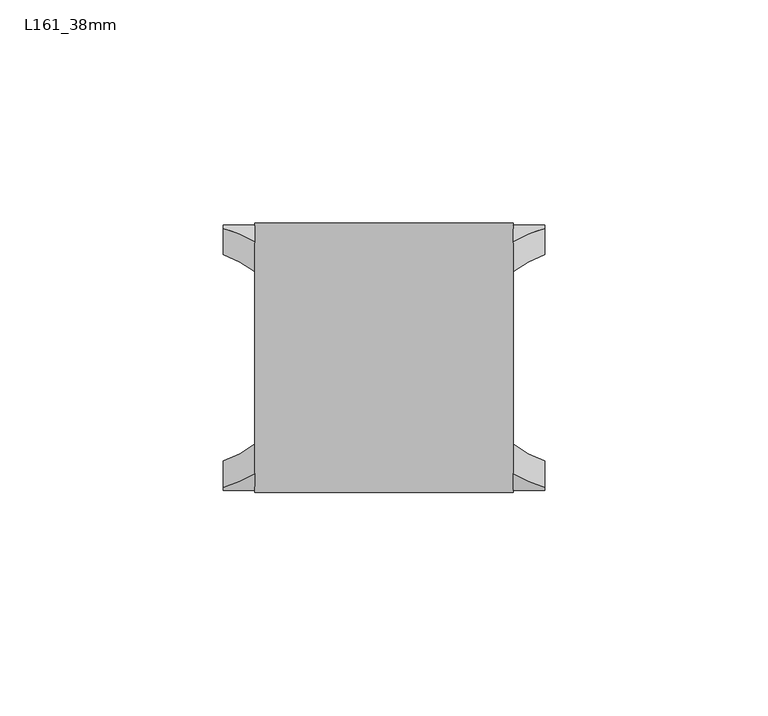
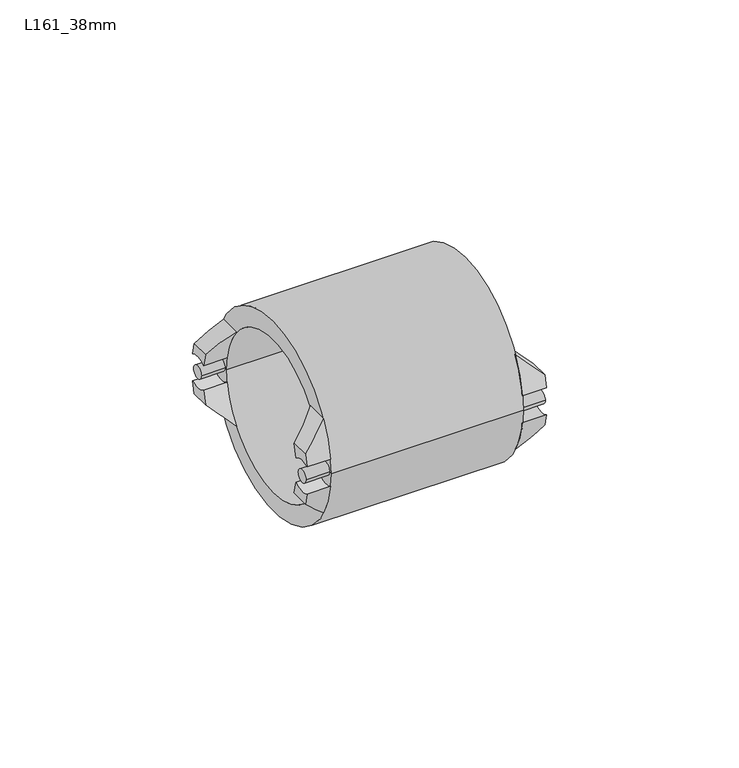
"""IFC4 building model written with IfcOpenShell, lengths in millimetres: pipe fitting geometry, Durapipe_PipeFitting_VulcatheneEnfusion_Coupling_L16 : L161_38mm."""

from ifc_helpers import new_model, si_unit, point, frame, frame_2d, origin, place, context, project, spatial, polyline, circle_curve, ellipse_curve, trimmed, segment, composite_curve, outline, extrude, source, transform, mapped, element, save
from ifc_brep_helpers import plane_surface, cylinder_surface, revolved_surface, advanced_brep


def l161_38mm_9375cee0(model_context):
    return source(origin(), model_context, "Body", "SolidModel", [
        advanced_brep(
        [(-36.0, -24.1351376, 3.9112188), (-36.0, -29.7351376, 4.3386739), (-36.0, -28.9820444, 7.94), (-36.0, -23.1248546, 7.94), (-28.9, -26.0384811, 15.0), (-28.9, -29.7351376, 4.3386739), (-28.9, -24.1351376, 3.9112188), (-28.9, -19.3080942, 15.0)],
        [
            (0, 1, circle_curve(frame((-36.0, -27.25, 0.0), z_axis=(1.0, 0.0, 0.0), x_axis=(0.0, 1.0, 0.0)), 5.0)),
            (1, 2, circle_curve(frame((-36.0, 0.0, 0.0), z_axis=(-1.0, 0.0, 0.0), x_axis=(0.0, 1.0, 0.0)), 30.05)),
            (2, 3),
            (3, 0, circle_curve(frame((-36.0, 0.0, 0.0), z_axis=(1.0, 0.0, 0.0), x_axis=(0.0, 1.0, 0.0)), 24.45)),
            (4, 5, circle_curve(frame((-28.9, 0.0, 0.0), z_axis=(1.0, 0.0, 0.0), x_axis=(0.0, 1.0, 0.0)), 30.05)),
            (5, 6, circle_curve(frame((-28.9, -27.25, 0.0), z_axis=(-1.0, 0.0, 0.0), x_axis=(0.0, 1.0, 0.0)), 5.0)),
            (6, 7, circle_curve(frame((-28.9, 0.0, 0.0), z_axis=(-1.0, 0.0, 0.0), x_axis=(0.0, 1.0, 0.0)), 24.45)),
            (7, 4),
            (6, 0),
            (3, 7, ellipse_curve(frame((-43.9849858, 0.0, 0.0), z_axis=(-0.7051064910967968, 0.0, 0.7091014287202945), x_axis=(0.7091014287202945, 0.0, 0.7051064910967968)), 34.6756133, 24.45)),
            (4, 2, ellipse_curve(frame((-43.9849858, 0.0, 0.0), z_axis=(0.7051064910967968, 0.0, -0.7091014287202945), x_axis=(-0.7091014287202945, 0.0, -0.7051064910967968)), 42.617676, 30.05)),
            (1, 5),
        ],
        [
            plane_surface(frame((-36.0, -26.0384811, 15.0), z_axis=(-1.0, 0.0, 0.0), x_axis=(0.0, 1.0, 0.0))),
            plane_surface(frame((-28.9, -26.0384811, 15.0), z_axis=(1.0, 0.0, 0.0), x_axis=(0.0, -1.0, 0.0))),
            revolved_surface(polyline([(-19.39645886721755, 24.45, 0.0), (-68.57351273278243, 24.45, 0.0)]), (-28.9, 0.0, 0.0), (1.0, 0.0, 0.0)),
            cylinder_surface(frame((-28.9, 0.0, 0.0), z_axis=(-1.0, 0.0, 0.0), x_axis=(0.0, 1.0, 0.0)), 30.05),
            revolved_surface(polyline([(-36.0, -22.25, 0.0), (-28.9, -22.25, 0.0)]), (-28.9, -27.25, 0.0), (-1.0, 0.0, 0.0)),
            plane_surface(frame((-28.9, 30.05, 15.0), z_axis=(-0.7051064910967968, 0.0, 0.7091014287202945), x_axis=(0.0, -1.0, 0.0))),
        ],
        [
            (0, [[1, 2, 3, 4]]),
            (1, [[5, 6, 7, 8]]),
            (2, [[-7, 9, -4, 10]]),
            (3, [[-5, 11, -2, 12]]),
            (4, [[-1, -9, -6, -12]]),
            (5, [[-3, -11, -8, -10]]),
        ],
    ),
        advanced_brep(
        [(-36.0, -29.7351376, -4.3386739), (-36.0, -24.1351376, -3.9112188), (-36.0, -23.1248546, -7.94), (-36.0, -28.9820444, -7.94), (-28.9, -29.7351376, -4.3386739), (-28.9, -26.0384811, -15.0), (-28.9, -19.3080942, -15.0), (-28.9, -24.1351376, -3.9112188)],
        [
            (0, 1, circle_curve(frame((-36.0, -27.25, 0.0), z_axis=(1.0, 0.0, 0.0), x_axis=(0.0, 1.0, 0.0)), 5.0)),
            (1, 2, circle_curve(frame((-36.0, 0.0, 0.0), z_axis=(1.0, 0.0, 0.0), x_axis=(0.0, 1.0, 0.0)), 24.45)),
            (2, 3),
            (3, 0, circle_curve(frame((-36.0, 0.0, 0.0), z_axis=(-1.0, 0.0, 0.0), x_axis=(0.0, 1.0, 0.0)), 30.05)),
            (4, 5, circle_curve(frame((-28.9, 0.0, 0.0), z_axis=(1.0, 0.0, 0.0), x_axis=(0.0, 1.0, 0.0)), 30.05)),
            (5, 6),
            (6, 7, circle_curve(frame((-28.9, 0.0, 0.0), z_axis=(-1.0, 0.0, 0.0), x_axis=(0.0, 1.0, 0.0)), 24.45)),
            (7, 4, circle_curve(frame((-28.9, -27.25, 0.0), z_axis=(-1.0, 0.0, 0.0), x_axis=(0.0, 1.0, 0.0)), 5.0)),
            (6, 2, ellipse_curve(frame((-43.9849858, 0.0, 0.0), z_axis=(-0.7051064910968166, 0.0, -0.7091014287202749), x_axis=(0.7091014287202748, 0.0, -0.7051064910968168)), 34.6756133, 24.45)),
            (1, 7),
            (4, 0),
            (3, 5, ellipse_curve(frame((-43.9849858, 0.0, 0.0), z_axis=(0.7051064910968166, 0.0, 0.7091014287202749), x_axis=(-0.7091014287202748, 0.0, 0.7051064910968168)), 42.617676, 30.05)),
        ],
        [
            plane_surface(frame((-36.0, -26.0384811, 15.0), z_axis=(-1.0, 0.0, 0.0), x_axis=(0.0, 1.0, 0.0))),
            plane_surface(frame((-28.9, -26.0384811, 15.0), z_axis=(1.0, 0.0, 0.0), x_axis=(0.0, -1.0, 0.0))),
            revolved_surface(polyline([(-19.396458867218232, 24.45, 0.0), (-68.57351273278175, 24.45, 0.0)]), (-28.9, 0.0, 0.0), (1.0, 0.0, 0.0)),
            cylinder_surface(frame((-28.9, 0.0, 0.0), z_axis=(-1.0, 0.0, 0.0), x_axis=(0.0, 1.0, 0.0)), 30.05),
            revolved_surface(polyline([(-36.0, -22.25, 0.0), (-28.9, -22.25, 0.0)]), (-28.9, -27.25, 0.0), (-1.0, 0.0, 0.0)),
            plane_surface(frame((-36.0, 30.05, -7.94), z_axis=(-0.7051064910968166, 0.0, -0.7091014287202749), x_axis=(0.0, -1.0, 0.0))),
        ],
        [
            (0, [[1, 2, 3, 4]]),
            (1, [[5, 6, 7, 8]]),
            (2, [[-7, 9, -2, 10]]),
            (3, [[-5, 11, -4, 12]]),
            (4, [[-1, -11, -8, -10]]),
            (5, [[-3, -9, -6, -12]]),
        ],
    ),
        advanced_brep(
        [(-36.0, 29.7351376, 4.3386739), (-36.0, 24.1351376, 3.9112188), (-36.0, 23.1248546, 7.94), (-36.0, 28.9820444, 7.94), (-28.9, 29.7351376, 4.3386739), (-28.9, 26.0384811, 15.0), (-28.9, 19.3080942, 15.0), (-28.9, 24.1351376, 3.9112188)],
        [
            (0, 1, circle_curve(frame((-36.0, 27.25, 0.0), z_axis=(1.0, 0.0, 0.0), x_axis=(0.0, 1.0, 0.0)), 5.0)),
            (1, 2, circle_curve(frame((-36.0, 0.0, 0.0), z_axis=(1.0, 0.0, 0.0), x_axis=(0.0, 1.0, 0.0)), 24.45)),
            (2, 3),
            (3, 0, circle_curve(frame((-36.0, 0.0, 0.0), z_axis=(-1.0, 0.0, 0.0), x_axis=(0.0, 1.0, 0.0)), 30.05)),
            (4, 5, circle_curve(frame((-28.9, 0.0, 0.0), z_axis=(1.0, 0.0, 0.0), x_axis=(0.0, 1.0, 0.0)), 30.05)),
            (5, 6),
            (6, 7, circle_curve(frame((-28.9, 0.0, 0.0), z_axis=(-1.0, 0.0, 0.0), x_axis=(0.0, 1.0, 0.0)), 24.45)),
            (7, 4, circle_curve(frame((-28.9, 27.25, 0.0), z_axis=(-1.0, 0.0, 0.0), x_axis=(0.0, 1.0, 0.0)), 5.0)),
            (6, 2, ellipse_curve(frame((-43.9849858, 0.0, 0.0), z_axis=(-0.7051064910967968, 0.0, 0.7091014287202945), x_axis=(0.7091014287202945, 0.0, 0.7051064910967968)), 34.6756133, 24.45)),
            (1, 7),
            (4, 0),
            (3, 5, ellipse_curve(frame((-43.9849858, 0.0, 0.0), z_axis=(0.7051064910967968, 0.0, -0.7091014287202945), x_axis=(-0.7091014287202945, 0.0, -0.7051064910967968)), 42.617676, 30.05)),
        ],
        [
            plane_surface(frame((-36.0, -26.0384811, 15.0), z_axis=(-1.0, 0.0, 0.0), x_axis=(0.0, 1.0, 0.0))),
            plane_surface(frame((-28.9, -26.0384811, 15.0), z_axis=(1.0, 0.0, 0.0), x_axis=(0.0, -1.0, 0.0))),
            revolved_surface(polyline([(-19.39645886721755, 24.45, 0.0), (-68.57351273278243, 24.45, 0.0)]), (-28.9, 0.0, 0.0), (1.0, 0.0, 0.0)),
            cylinder_surface(frame((-28.9, 0.0, 0.0), z_axis=(-1.0, 0.0, 0.0), x_axis=(0.0, 1.0, 0.0)), 30.05),
            revolved_surface(polyline([(-36.0, 32.25, 0.0), (-28.9, 32.25, 0.0)]), (-28.9, 27.25, 0.0), (-1.0, 0.0, 0.0)),
            plane_surface(frame((-28.9, 30.05, 15.0), z_axis=(-0.7051064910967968, 0.0, 0.7091014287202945), x_axis=(0.0, -1.0, 0.0))),
        ],
        [
            (0, [[1, 2, 3, 4]]),
            (1, [[5, 6, 7, 8]]),
            (2, [[-7, 9, -2, 10]]),
            (3, [[-5, 11, -4, 12]]),
            (4, [[-1, -11, -8, -10]]),
            (5, [[-3, -9, -6, -12]]),
        ],
    ),
        advanced_brep(
        [(-36.0, 24.1351376, -3.9112188), (-36.0, 29.7351376, -4.3386739), (-36.0, 28.9820444, -7.94), (-36.0, 23.1248546, -7.94), (-28.9, 26.0384811, -15.0), (-28.9, 29.7351376, -4.3386739), (-28.9, 24.1351376, -3.9112188), (-28.9, 19.3080942, -15.0)],
        [
            (0, 1, circle_curve(frame((-36.0, 27.25, 0.0), z_axis=(1.0, 0.0, 0.0), x_axis=(0.0, 1.0, 0.0)), 5.0)),
            (1, 2, circle_curve(frame((-36.0, 0.0, 0.0), z_axis=(-1.0, 0.0, 0.0), x_axis=(0.0, 1.0, 0.0)), 30.05)),
            (2, 3),
            (3, 0, circle_curve(frame((-36.0, 0.0, 0.0), z_axis=(1.0, 0.0, 0.0), x_axis=(0.0, 1.0, 0.0)), 24.45)),
            (4, 5, circle_curve(frame((-28.9, 0.0, 0.0), z_axis=(1.0, 0.0, 0.0), x_axis=(0.0, 1.0, 0.0)), 30.05)),
            (5, 6, circle_curve(frame((-28.9, 27.25, 0.0), z_axis=(-1.0, 0.0, 0.0), x_axis=(0.0, 1.0, 0.0)), 5.0)),
            (6, 7, circle_curve(frame((-28.9, 0.0, 0.0), z_axis=(-1.0, 0.0, 0.0), x_axis=(0.0, 1.0, 0.0)), 24.45)),
            (7, 4),
            (6, 0),
            (3, 7, ellipse_curve(frame((-43.9849858, 0.0, 0.0), z_axis=(-0.7051064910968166, 0.0, -0.7091014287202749), x_axis=(0.7091014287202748, 0.0, -0.7051064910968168)), 34.6756133, 24.45)),
            (4, 2, ellipse_curve(frame((-43.9849858, 0.0, 0.0), z_axis=(0.7051064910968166, 0.0, 0.7091014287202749), x_axis=(-0.7091014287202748, 0.0, 0.7051064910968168)), 42.617676, 30.05)),
            (1, 5),
        ],
        [
            plane_surface(frame((-36.0, -26.0384811, 15.0), z_axis=(-1.0, 0.0, 0.0), x_axis=(0.0, 1.0, 0.0))),
            plane_surface(frame((-28.9, -26.0384811, 15.0), z_axis=(1.0, 0.0, 0.0), x_axis=(0.0, -1.0, 0.0))),
            revolved_surface(polyline([(-19.396458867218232, 24.45, 0.0), (-68.57351273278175, 24.45, 0.0)]), (-28.9, 0.0, 0.0), (1.0, 0.0, 0.0)),
            cylinder_surface(frame((-28.9, 0.0, 0.0), z_axis=(-1.0, 0.0, 0.0), x_axis=(0.0, 1.0, 0.0)), 30.05),
            revolved_surface(polyline([(-36.0, 32.25, 0.0), (-28.9, 32.25, 0.0)]), (-28.9, 27.25, 0.0), (-1.0, 0.0, 0.0)),
            plane_surface(frame((-36.0, 30.05, -7.94), z_axis=(-0.7051064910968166, 0.0, -0.7091014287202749), x_axis=(0.0, -1.0, 0.0))),
        ],
        [
            (0, [[1, 2, 3, 4]]),
            (1, [[5, 6, 7, 8]]),
            (2, [[-7, 9, -4, 10]]),
            (3, [[-5, 11, -2, 12]]),
            (4, [[-1, -9, -6, -12]]),
            (5, [[-3, -11, -8, -10]]),
        ],
    ),
        extrude(outline(composite_curve([segment(trimmed(circle_curve(frame_2d((-27.25, 0.0)), 2.0), [point((-29.25, 0.0))], [point((-25.25, 0.0))], False, "CARTESIAN"), True, "CONTINUOUS"), segment(trimmed(circle_curve(frame_2d((-27.25, 0.0)), 2.0), [point((-25.25, 0.0))], [point((-29.25, 0.0))], False, "CARTESIAN"), True, "CONTINUOUS")], self_intersect=False)), frame((-36.0, 0.0, 0.0), z_axis=(1.0, 0.0, 0.0), x_axis=(0.0, 1.0, 0.0)), (0.0, 0.0, 1.0), 7.1),
        extrude(outline(composite_curve([segment(trimmed(circle_curve(frame_2d((27.25, 0.0)), 2.0), [point((25.25, 0.0))], [point((29.25, 0.0))], False, "CARTESIAN"), True, "CONTINUOUS"), segment(trimmed(circle_curve(frame_2d((27.25, 0.0)), 2.0), [point((29.25, 0.0))], [point((25.25, 0.0))], False, "CARTESIAN"), True, "CONTINUOUS")], self_intersect=False)), frame((-36.0, 0.0, 0.0), z_axis=(1.0, 0.0, 0.0), x_axis=(0.0, 1.0, 0.0)), (0.0, 0.0, 1.0), 7.1),
        advanced_brep(
        [(36.0, -24.1351376, -3.9112188), (36.0, -29.7351376, -4.3386739), (36.0, -28.9820444, -7.94), (36.0, -23.1248546, -7.94), (28.9, -26.0384811, -15.0), (28.9, -29.7351376, -4.3386739), (28.9, -24.1351376, -3.9112188), (28.9, -19.3080942, -15.0)],
        [
            (0, 1, circle_curve(frame((36.0, -27.25, 0.0), z_axis=(-1.0, 0.0, 0.0), x_axis=(0.0, 1.0, 0.0)), 5.0)),
            (1, 2, circle_curve(frame((36.0, 0.0, 0.0), z_axis=(1.0, 0.0, 0.0), x_axis=(0.0, 1.0, 0.0)), 30.05)),
            (2, 3),
            (3, 0, circle_curve(frame((36.0, 0.0, 0.0), z_axis=(-1.0, 0.0, 0.0), x_axis=(0.0, 1.0, 0.0)), 24.45)),
            (4, 5, circle_curve(frame((28.9, 0.0, 0.0), z_axis=(-1.0, 0.0, 0.0), x_axis=(0.0, 1.0, 0.0)), 30.05)),
            (5, 6, circle_curve(frame((28.9, -27.25, 0.0), z_axis=(1.0, 0.0, 0.0), x_axis=(0.0, 1.0, 0.0)), 5.0)),
            (6, 7, circle_curve(frame((28.9, 0.0, 0.0), z_axis=(1.0, 0.0, 0.0), x_axis=(0.0, 1.0, 0.0)), 24.45)),
            (7, 4),
            (6, 0),
            (3, 7, ellipse_curve(frame((43.9849858, 0.0, 0.0), z_axis=(0.7051064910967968, 0.0, -0.7091014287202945), x_axis=(-0.7091014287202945, 0.0, -0.7051064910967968)), 34.6756133, 24.45)),
            (4, 2, ellipse_curve(frame((43.9849858, 0.0, 0.0), z_axis=(-0.7051064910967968, 0.0, 0.7091014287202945), x_axis=(0.7091014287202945, 0.0, 0.7051064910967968)), 42.617676, 30.05)),
            (1, 5),
        ],
        [
            plane_surface(frame((36.0, -26.0384811, -15.0), z_axis=(1.0, 0.0, 0.0), x_axis=(0.0, 1.0, 0.0))),
            plane_surface(frame((28.9, -26.0384811, -15.0), z_axis=(-1.0, 0.0, 0.0), x_axis=(0.0, -1.0, 0.0))),
            revolved_surface(polyline([(19.39645886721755, 24.45, 0.0), (68.57351273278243, 24.45, 0.0)]), (28.9, 0.0, 0.0), (-1.0, 0.0, 0.0)),
            cylinder_surface(frame((28.9, 0.0, 0.0), z_axis=(1.0, 0.0, 0.0), x_axis=(0.0, 1.0, 0.0)), 30.05),
            revolved_surface(polyline([(36.0, -22.25, 0.0), (28.9, -22.25, 0.0)]), (28.9, -27.25, 0.0), (1.0, 0.0, 0.0)),
            plane_surface(frame((28.9, 30.05, -15.0), z_axis=(0.7051064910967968, 0.0, -0.7091014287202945), x_axis=(0.0, -1.0, 0.0))),
        ],
        [
            (0, [[1, 2, 3, 4]]),
            (1, [[5, 6, 7, 8]]),
            (2, [[-7, 9, -4, 10]]),
            (3, [[-5, 11, -2, 12]]),
            (4, [[-1, -9, -6, -12]]),
            (5, [[-3, -11, -8, -10]]),
        ],
    ),
        advanced_brep(
        [(36.0, -29.7351376, 4.3386739), (36.0, -24.1351376, 3.9112188), (36.0, -23.1248546, 7.94), (36.0, -28.9820444, 7.94), (28.9, -29.7351376, 4.3386739), (28.9, -26.0384811, 15.0), (28.9, -19.3080942, 15.0), (28.9, -24.1351376, 3.9112188)],
        [
            (0, 1, circle_curve(frame((36.0, -27.25, 0.0), z_axis=(-1.0, 0.0, 0.0), x_axis=(0.0, 1.0, 0.0)), 5.0)),
            (1, 2, circle_curve(frame((36.0, 0.0, 0.0), z_axis=(-1.0, 0.0, 0.0), x_axis=(0.0, 1.0, 0.0)), 24.45)),
            (2, 3),
            (3, 0, circle_curve(frame((36.0, 0.0, 0.0), z_axis=(1.0, 0.0, 0.0), x_axis=(0.0, 1.0, 0.0)), 30.05)),
            (4, 5, circle_curve(frame((28.9, 0.0, 0.0), z_axis=(-1.0, 0.0, 0.0), x_axis=(0.0, 1.0, 0.0)), 30.05)),
            (5, 6),
            (6, 7, circle_curve(frame((28.9, 0.0, 0.0), z_axis=(1.0, 0.0, 0.0), x_axis=(0.0, 1.0, 0.0)), 24.45)),
            (7, 4, circle_curve(frame((28.9, -27.25, 0.0), z_axis=(1.0, 0.0, 0.0), x_axis=(0.0, 1.0, 0.0)), 5.0)),
            (6, 2, ellipse_curve(frame((43.9849858, 0.0, 0.0), z_axis=(0.7051064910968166, 0.0, 0.7091014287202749), x_axis=(-0.7091014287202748, 0.0, 0.7051064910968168)), 34.6756133, 24.45)),
            (1, 7),
            (4, 0),
            (3, 5, ellipse_curve(frame((43.9849858, 0.0, 0.0), z_axis=(-0.7051064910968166, 0.0, -0.7091014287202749), x_axis=(0.7091014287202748, 0.0, -0.7051064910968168)), 42.617676, 30.05)),
        ],
        [
            plane_surface(frame((36.0, -26.0384811, -15.0), z_axis=(1.0, 0.0, 0.0), x_axis=(0.0, 1.0, 0.0))),
            plane_surface(frame((28.9, -26.0384811, -15.0), z_axis=(-1.0, 0.0, 0.0), x_axis=(0.0, -1.0, 0.0))),
            revolved_surface(polyline([(19.396458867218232, 24.45, 0.0), (68.57351273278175, 24.45, 0.0)]), (28.9, 0.0, 0.0), (-1.0, 0.0, 0.0)),
            cylinder_surface(frame((28.9, 0.0, 0.0), z_axis=(1.0, 0.0, 0.0), x_axis=(0.0, 1.0, 0.0)), 30.05),
            revolved_surface(polyline([(36.0, -22.25, 0.0), (28.9, -22.25, 0.0)]), (28.9, -27.25, 0.0), (1.0, 0.0, 0.0)),
            plane_surface(frame((36.0, 30.05, 7.94), z_axis=(0.7051064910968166, 0.0, 0.7091014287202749), x_axis=(0.0, -1.0, 0.0))),
        ],
        [
            (0, [[1, 2, 3, 4]]),
            (1, [[5, 6, 7, 8]]),
            (2, [[-7, 9, -2, 10]]),
            (3, [[-5, 11, -4, 12]]),
            (4, [[-1, -11, -8, -10]]),
            (5, [[-3, -9, -6, -12]]),
        ],
    ),
        advanced_brep(
        [(36.0, 29.7351376, -4.3386739), (36.0, 24.1351376, -3.9112188), (36.0, 23.1248546, -7.94), (36.0, 28.9820444, -7.94), (28.9, 29.7351376, -4.3386739), (28.9, 26.0384811, -15.0), (28.9, 19.3080942, -15.0), (28.9, 24.1351376, -3.9112188)],
        [
            (0, 1, circle_curve(frame((36.0, 27.25, 0.0), z_axis=(-1.0, 0.0, 0.0), x_axis=(0.0, 1.0, 0.0)), 5.0)),
            (1, 2, circle_curve(frame((36.0, 0.0, 0.0), z_axis=(-1.0, 0.0, 0.0), x_axis=(0.0, 1.0, 0.0)), 24.45)),
            (2, 3),
            (3, 0, circle_curve(frame((36.0, 0.0, 0.0), z_axis=(1.0, 0.0, 0.0), x_axis=(0.0, 1.0, 0.0)), 30.05)),
            (4, 5, circle_curve(frame((28.9, 0.0, 0.0), z_axis=(-1.0, 0.0, 0.0), x_axis=(0.0, 1.0, 0.0)), 30.05)),
            (5, 6),
            (6, 7, circle_curve(frame((28.9, 0.0, 0.0), z_axis=(1.0, 0.0, 0.0), x_axis=(0.0, 1.0, 0.0)), 24.45)),
            (7, 4, circle_curve(frame((28.9, 27.25, 0.0), z_axis=(1.0, 0.0, 0.0), x_axis=(0.0, 1.0, 0.0)), 5.0)),
            (6, 2, ellipse_curve(frame((43.9849858, 0.0, 0.0), z_axis=(0.7051064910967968, 0.0, -0.7091014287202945), x_axis=(-0.7091014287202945, 0.0, -0.7051064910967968)), 34.6756133, 24.45)),
            (1, 7),
            (4, 0),
            (3, 5, ellipse_curve(frame((43.9849858, 0.0, 0.0), z_axis=(-0.7051064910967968, 0.0, 0.7091014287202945), x_axis=(0.7091014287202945, 0.0, 0.7051064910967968)), 42.617676, 30.05)),
        ],
        [
            plane_surface(frame((36.0, -26.0384811, -15.0), z_axis=(1.0, 0.0, 0.0), x_axis=(0.0, 1.0, 0.0))),
            plane_surface(frame((28.9, -26.0384811, -15.0), z_axis=(-1.0, 0.0, 0.0), x_axis=(0.0, -1.0, 0.0))),
            revolved_surface(polyline([(19.39645886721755, 24.45, 0.0), (68.57351273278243, 24.45, 0.0)]), (28.9, 0.0, 0.0), (-1.0, 0.0, 0.0)),
            cylinder_surface(frame((28.9, 0.0, 0.0), z_axis=(1.0, 0.0, 0.0), x_axis=(0.0, 1.0, 0.0)), 30.05),
            revolved_surface(polyline([(36.0, 32.25, 0.0), (28.9, 32.25, 0.0)]), (28.9, 27.25, 0.0), (1.0, 0.0, 0.0)),
            plane_surface(frame((28.9, 30.05, -15.0), z_axis=(0.7051064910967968, 0.0, -0.7091014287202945), x_axis=(0.0, -1.0, 0.0))),
        ],
        [
            (0, [[1, 2, 3, 4]]),
            (1, [[5, 6, 7, 8]]),
            (2, [[-7, 9, -2, 10]]),
            (3, [[-5, 11, -4, 12]]),
            (4, [[-1, -11, -8, -10]]),
            (5, [[-3, -9, -6, -12]]),
        ],
    ),
        advanced_brep(
        [(36.0, 24.1351376, 3.9112188), (36.0, 29.7351376, 4.3386739), (36.0, 28.9820444, 7.94), (36.0, 23.1248546, 7.94), (28.9, 26.0384811, 15.0), (28.9, 29.7351376, 4.3386739), (28.9, 24.1351376, 3.9112188), (28.9, 19.3080942, 15.0)],
        [
            (0, 1, circle_curve(frame((36.0, 27.25, 0.0), z_axis=(-1.0, 0.0, 0.0), x_axis=(0.0, 1.0, 0.0)), 5.0)),
            (1, 2, circle_curve(frame((36.0, 0.0, 0.0), z_axis=(1.0, 0.0, 0.0), x_axis=(0.0, 1.0, 0.0)), 30.05)),
            (2, 3),
            (3, 0, circle_curve(frame((36.0, 0.0, 0.0), z_axis=(-1.0, 0.0, 0.0), x_axis=(0.0, 1.0, 0.0)), 24.45)),
            (4, 5, circle_curve(frame((28.9, 0.0, 0.0), z_axis=(-1.0, 0.0, 0.0), x_axis=(0.0, 1.0, 0.0)), 30.05)),
            (5, 6, circle_curve(frame((28.9, 27.25, 0.0), z_axis=(1.0, 0.0, 0.0), x_axis=(0.0, 1.0, 0.0)), 5.0)),
            (6, 7, circle_curve(frame((28.9, 0.0, 0.0), z_axis=(1.0, 0.0, 0.0), x_axis=(0.0, 1.0, 0.0)), 24.45)),
            (7, 4),
            (6, 0),
            (3, 7, ellipse_curve(frame((43.9849858, 0.0, 0.0), z_axis=(0.7051064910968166, 0.0, 0.7091014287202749), x_axis=(-0.7091014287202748, 0.0, 0.7051064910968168)), 34.6756133, 24.45)),
            (4, 2, ellipse_curve(frame((43.9849858, 0.0, 0.0), z_axis=(-0.7051064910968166, 0.0, -0.7091014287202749), x_axis=(0.7091014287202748, 0.0, -0.7051064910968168)), 42.617676, 30.05)),
            (1, 5),
        ],
        [
            plane_surface(frame((36.0, -26.0384811, -15.0), z_axis=(1.0, 0.0, 0.0), x_axis=(0.0, 1.0, 0.0))),
            plane_surface(frame((28.9, -26.0384811, -15.0), z_axis=(-1.0, 0.0, 0.0), x_axis=(0.0, -1.0, 0.0))),
            revolved_surface(polyline([(19.396458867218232, 24.45, 0.0), (68.57351273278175, 24.45, 0.0)]), (28.9, 0.0, 0.0), (-1.0, 0.0, 0.0)),
            cylinder_surface(frame((28.9, 0.0, 0.0), z_axis=(1.0, 0.0, 0.0), x_axis=(0.0, 1.0, 0.0)), 30.05),
            revolved_surface(polyline([(36.0, 32.25, 0.0), (28.9, 32.25, 0.0)]), (28.9, 27.25, 0.0), (1.0, 0.0, 0.0)),
            plane_surface(frame((36.0, 30.05, 7.94), z_axis=(0.7051064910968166, 0.0, 0.7091014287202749), x_axis=(0.0, -1.0, 0.0))),
        ],
        [
            (0, [[1, 2, 3, 4]]),
            (1, [[5, 6, 7, 8]]),
            (2, [[-7, 9, -4, 10]]),
            (3, [[-5, 11, -2, 12]]),
            (4, [[-1, -9, -6, -12]]),
            (5, [[-3, -11, -8, -10]]),
        ],
    ),
        extrude(outline(composite_curve([segment(trimmed(circle_curve(frame_2d((-27.25, 0.0)), 2.0), [point((-29.25, 0.0))], [point((-25.25, 0.0))], False, "CARTESIAN"), True, "CONTINUOUS"), segment(trimmed(circle_curve(frame_2d((-27.25, 0.0)), 2.0), [point((-25.25, 0.0))], [point((-29.25, 0.0))], False, "CARTESIAN"), True, "CONTINUOUS")], self_intersect=False)), frame((28.9, 0.0, 0.0), z_axis=(1.0, 0.0, 0.0), x_axis=(0.0, 1.0, 0.0)), (0.0, 0.0, 1.0), 7.1),
        extrude(outline(composite_curve([segment(trimmed(circle_curve(frame_2d((27.25, 0.0)), 2.0), [point((25.25, 0.0))], [point((29.25, 0.0))], False, "CARTESIAN"), True, "CONTINUOUS"), segment(trimmed(circle_curve(frame_2d((27.25, 0.0)), 2.0), [point((29.25, 0.0))], [point((25.25, 0.0))], False, "CARTESIAN"), True, "CONTINUOUS")], self_intersect=False)), frame((28.9, 0.0, 0.0), z_axis=(1.0, 0.0, 0.0), x_axis=(0.0, 1.0, 0.0)), (0.0, 0.0, 1.0), 7.1),
        advanced_brep(
        [(-2.9, -24.3, 0.0), (-2.9, 24.3, 0.0), (-28.9, 24.3, 0.0), (-28.9, -24.3, 0.0), (-2.9, -20.4, 0.0), (-2.9, 20.4, 0.0), (2.9, -20.4, 0.0), (2.9, 20.4, 0.0), (2.9, -24.3, 0.0), (2.9, 24.3, 0.0), (28.9, -24.3, 0.0), (28.9, 24.3, 0.0), (28.9, -30.2, 0.0), (28.9, 30.2, 0.0), (-28.9, -30.2, 0.0), (-28.9, 30.2, 0.0)],
        [
            (0, 1, circle_curve(frame((-2.9, 0.0, 0.0), z_axis=(1.0, 0.0, 0.0), x_axis=(0.0, 1.0, 0.0)), 24.3)),
            (1, 2),
            (2, 3, circle_curve(frame((-28.9, 0.0, 0.0), z_axis=(-1.0, 0.0, 0.0), x_axis=(0.0, 1.0, 0.0)), 24.3)),
            (3, 0),
            (1, 0, circle_curve(frame((-2.9, 0.0, 0.0), z_axis=(1.0, 0.0, 0.0), x_axis=(0.0, 1.0, 0.0)), 24.3)),
            (3, 2, circle_curve(frame((-28.9, 0.0, 0.0), z_axis=(-1.0, 0.0, 0.0), x_axis=(0.0, 1.0, 0.0)), 24.3)),
            (4, 5, circle_curve(frame((-2.9, 0.0, 0.0), z_axis=(1.0, 0.0, 0.0), x_axis=(0.0, 1.0, 0.0)), 20.4)),
            (5, 1),
            (0, 4),
            (5, 4, circle_curve(frame((-2.9, 0.0, 0.0), z_axis=(1.0, 0.0, 0.0), x_axis=(0.0, 1.0, 0.0)), 20.4)),
            (6, 7, circle_curve(frame((2.9, 0.0, 0.0), z_axis=(1.0, 0.0, 0.0), x_axis=(0.0, 1.0, 0.0)), 20.4)),
            (7, 5),
            (4, 6),
            (7, 6, circle_curve(frame((2.9, 0.0, 0.0), z_axis=(1.0, 0.0, 0.0), x_axis=(0.0, 1.0, 0.0)), 20.4)),
            (8, 9, circle_curve(frame((2.9, 0.0, 0.0), z_axis=(1.0, 0.0, 0.0), x_axis=(0.0, 1.0, 0.0)), 24.3)),
            (9, 7),
            (6, 8),
            (9, 8, circle_curve(frame((2.9, 0.0, 0.0), z_axis=(1.0, 0.0, 0.0), x_axis=(0.0, 1.0, 0.0)), 24.3)),
            (10, 11, circle_curve(frame((28.9, 0.0, 0.0), z_axis=(1.0, 0.0, 0.0), x_axis=(0.0, 1.0, 0.0)), 24.3)),
            (11, 9),
            (8, 10),
            (11, 10, circle_curve(frame((28.9, 0.0, 0.0), z_axis=(1.0, 0.0, 0.0), x_axis=(0.0, 1.0, 0.0)), 24.3)),
            (12, 13, circle_curve(frame((28.9, 0.0, 0.0), z_axis=(1.0, 0.0, 0.0), x_axis=(0.0, 1.0, 0.0)), 30.2)),
            (13, 11),
            (10, 12),
            (13, 12, circle_curve(frame((28.9, 0.0, 0.0), z_axis=(1.0, 0.0, 0.0), x_axis=(0.0, 1.0, 0.0)), 30.2)),
            (14, 15, circle_curve(frame((-28.9, 0.0, 0.0), z_axis=(1.0, 0.0, 0.0), x_axis=(0.0, 1.0, 0.0)), 30.2)),
            (15, 13),
            (12, 14),
            (15, 14, circle_curve(frame((-28.9, 0.0, 0.0), z_axis=(1.0, 0.0, 0.0), x_axis=(0.0, 1.0, 0.0)), 30.2)),
            (2, 15),
            (14, 3),
        ],
        [
            revolved_surface(polyline([(-28.90000000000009, 24.3, 0.0), (-2.900000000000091, 24.3, 0.0)]), (1578.1396958, 0.0, 0.0), (-1.0, 0.0, 0.0)),
            plane_surface(frame((-2.9, 0.0, 0.0), z_axis=(-1.0, 0.0, 0.0), x_axis=(0.0, 1.0, 0.0))),
            revolved_surface(polyline([(-2.900000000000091, 20.4, 0.0), (2.900000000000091, 20.4, 0.0)]), (1578.1396958, 0.0, 0.0), (-1.0, 0.0, 0.0)),
            plane_surface(frame((2.9, 0.0, 0.0), z_axis=(1.0, 0.0, 0.0), x_axis=(0.0, 1.0, 0.0))),
            revolved_surface(polyline([(2.900000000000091, 24.3, 0.0), (28.90000000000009, 24.3, 0.0)]), (1578.1396958, 0.0, 0.0), (-1.0, 0.0, 0.0)),
            plane_surface(frame((28.9, 0.0, 0.0), z_axis=(1.0, 0.0, 0.0), x_axis=(0.0, 1.0, 0.0))),
            cylinder_surface(frame((1578.1396958, 0.0, 0.0), z_axis=(-1.0, 0.0, 0.0), x_axis=(0.0, 1.0, 0.0)), 30.2),
            plane_surface(frame((-28.9, 0.0, 0.0), z_axis=(-1.0, 0.0, 0.0), x_axis=(0.0, 1.0, 0.0))),
        ],
        [
            (0, [[1, 2, 3, 4]]),
            (0, [[5, -4, 6, -2]]),
            (1, [[7, 8, -1, 9]]),
            (1, [[10, -9, -5, -8]]),
            (2, [[11, 12, -7, 13]]),
            (2, [[14, -13, -10, -12]]),
            (3, [[15, 16, -11, 17]]),
            (3, [[18, -17, -14, -16]]),
            (4, [[19, 20, -15, 21]]),
            (4, [[22, -21, -18, -20]]),
            (5, [[23, 24, -19, 25]]),
            (5, [[26, -25, -22, -24]]),
            (6, [[27, 28, -23, 29]]),
            (6, [[30, -29, -26, -28]]),
            (7, [[-3, 31, -27, 32]]),
            (7, [[-6, -32, -30, -31]]),
        ],
    ),
    ])


if __name__ == "__main__":
    model = new_model("IFC4")
    model_context = context("Model", 3, world=origin())
    ifc_project = project(units=[si_unit("LENGTHUNIT", "METRE", prefix="MILLI")], contexts=[model_context])
    site = spatial("IfcSite", under=ifc_project)
    building = spatial("IfcBuilding", under=site)
    placement = place(None, origin())
    l161_38mm_shape = l161_38mm_9375cee0(model_context)
    element("IfcPipeFitting", 1, ObjectType="Durapipe_PipeFitting_VulcatheneEnfusion_Coupling_L16 : L161_38mm", at=placement, inside=building, context=model_context, shape_type="MappedRepresentation", body=[
        mapped(l161_38mm_shape, transform((0.0, 0.0, 0.0), x_axis=(1.0, 0.0, 0.0), y_axis=(0.0, 1.0, 0.0), z_axis=(0.0, 0.0, 1.0))),
    ])
    save(model, "model.ifc")
